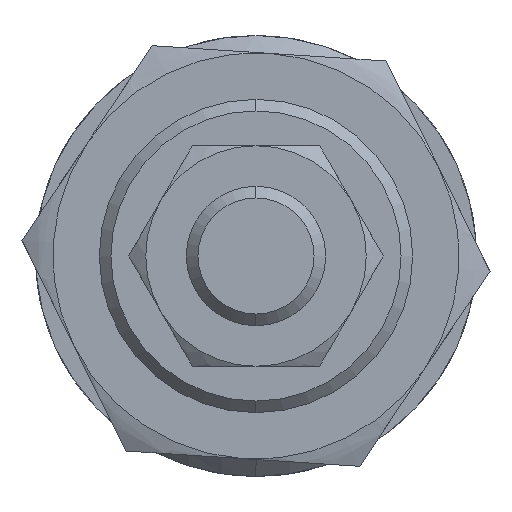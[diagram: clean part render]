
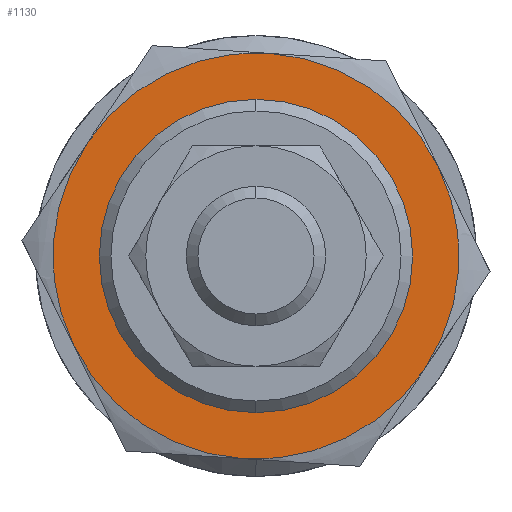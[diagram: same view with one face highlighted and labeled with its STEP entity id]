
A CAD part, left-side view. The second image highlights one B-rep face of the part: STEP entity #1130.
In plain terms, the highlighted planar face has unit normal (-1, 0, 0) as drawn and (0, 0, -1) by its records, which use the part's own axes.
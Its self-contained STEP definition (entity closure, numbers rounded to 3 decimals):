
#39 = DIRECTION ( 'NONE',  ( 1., 0., 0. ) ) ;
#84 = AXIS2_PLACEMENT_3D ( 'NONE', #1186, #341, #2618 ) ;
#161 = CARTESIAN_POINT ( 'NONE',  ( 0., 0., -5. ) ) ;
#228 = DIRECTION ( 'NONE',  ( 0., 0., 1. ) ) ;
#238 = EDGE_CURVE ( 'NONE', #2473, #616, #713, .T. ) ;
#250 = VERTEX_POINT ( 'NONE', #2527 ) ;
#318 = AXIS2_PLACEMENT_3D ( 'NONE', #2919, #2475, #1082 ) ;
#339 = CARTESIAN_POINT ( 'NONE',  ( 12.5, 0., -5. ) ) ;
#341 = DIRECTION ( 'NONE',  ( 0., 0., 1. ) ) ;
#349 = DIRECTION ( 'NONE',  ( 1., 0., 0. ) ) ;
#422 = DIRECTION ( 'NONE',  ( 0., 0., 1. ) ) ;
#458 = CIRCLE ( 'NONE', #2832, 17.5 ) ;
#517 = VERTEX_POINT ( 'NONE', #2274 ) ;
#609 = ORIENTED_EDGE ( 'NONE', *, *, #1582, .F. ) ;
#616 = VERTEX_POINT ( 'NONE', #2909 ) ;
#713 = CIRCLE ( 'NONE', #1554, 17.5 ) ;
#723 = CARTESIAN_POINT ( 'NONE',  ( -17.5, 0., -5. ) ) ;
#829 = CARTESIAN_POINT ( 'NONE',  ( 0., 0., -5. ) ) ;
#848 = EDGE_CURVE ( 'NONE', #1564, #1875, #1105, .T. ) ;
#867 = CARTESIAN_POINT ( 'NONE',  ( 0., 0., -5. ) ) ;
#888 = AXIS2_PLACEMENT_3D ( 'NONE', #161, #1411, #959 ) ;
#936 = CIRCLE ( 'NONE', #3006, 17.5 ) ;
#947 = EDGE_CURVE ( 'NONE', #250, #2542, #458, .T. ) ;
#959 = DIRECTION ( 'NONE',  ( 1., 0., 0. ) ) ;
#1082 = DIRECTION ( 'NONE',  ( 1., 0., 0. ) ) ;
#1105 = CIRCLE ( 'NONE', #3169, 12.5 ) ;
#1127 = FACE_OUTER_BOUND ( 'NONE', #2824, .T. ) ;
#1130 = ADVANCED_FACE ( 'NONE', ( #1188, #1127 ), #3022, .F. ) ;
#1179 = CIRCLE ( 'NONE', #1923, 17.5 ) ;
#1186 = CARTESIAN_POINT ( 'NONE',  ( 0., 0., -5. ) ) ;
#1188 = FACE_BOUND ( 'NONE', #1604, .T. ) ;
#1327 = DIRECTION ( 'NONE',  ( 1., 0., 0. ) ) ;
#1375 = CARTESIAN_POINT ( 'NONE',  ( -12.5, 0., -5. ) ) ;
#1411 = DIRECTION ( 'NONE',  ( 0., 0., 1. ) ) ;
#1503 = CARTESIAN_POINT ( 'NONE',  ( 0., 0., -5. ) ) ;
#1522 = VERTEX_POINT ( 'NONE', #723 ) ;
#1554 = AXIS2_PLACEMENT_3D ( 'NONE', #2738, #228, #349 ) ;
#1564 = VERTEX_POINT ( 'NONE', #1375 ) ;
#1582 = EDGE_CURVE ( 'NONE', #2542, #1522, #936, .T. ) ;
#1584 = CARTESIAN_POINT ( 'NONE',  ( -8.75, 15.155, -5. ) ) ;
#1604 = EDGE_LOOP ( 'NONE', ( #1860, #2717 ) ) ;
#1630 = CIRCLE ( 'NONE', #318, 17.5 ) ;
#1732 = DIRECTION ( 'NONE',  ( 1., 0., 0. ) ) ;
#1860 = ORIENTED_EDGE ( 'NONE', *, *, #2385, .T. ) ;
#1875 = VERTEX_POINT ( 'NONE', #339 ) ;
#1923 = AXIS2_PLACEMENT_3D ( 'NONE', #2869, #422, #2361 ) ;
#1941 = ORIENTED_EDGE ( 'NONE', *, *, #2688, .F. ) ;
#2089 = ORIENTED_EDGE ( 'NONE', *, *, #947, .F. ) ;
#2197 = DIRECTION ( 'NONE',  ( 1., 0., 0. ) ) ;
#2230 = EDGE_CURVE ( 'NONE', #1522, #517, #1179, .T. ) ;
#2274 = CARTESIAN_POINT ( 'NONE',  ( -8.75, -15.155, -5. ) ) ;
#2361 = DIRECTION ( 'NONE',  ( 1., 0., 0. ) ) ;
#2385 = EDGE_CURVE ( 'NONE', #1875, #1564, #3002, .T. ) ;
#2468 = CARTESIAN_POINT ( 'NONE',  ( 8.75, -15.155, -5. ) ) ;
#2473 = VERTEX_POINT ( 'NONE', #2468 ) ;
#2475 = DIRECTION ( 'NONE',  ( 0., 0., 1. ) ) ;
#2527 = CARTESIAN_POINT ( 'NONE',  ( 8.75, 15.155, -5. ) ) ;
#2542 = VERTEX_POINT ( 'NONE', #1584 ) ;
#2594 = DIRECTION ( 'NONE',  ( 0., 0., 1. ) ) ;
#2618 = DIRECTION ( 'NONE',  ( 1., 0., 0. ) ) ;
#2688 = EDGE_CURVE ( 'NONE', #517, #2473, #3356, .T. ) ;
#2701 = DIRECTION ( 'NONE',  ( 0., 0., 1. ) ) ;
#2717 = ORIENTED_EDGE ( 'NONE', *, *, #848, .T. ) ;
#2738 = CARTESIAN_POINT ( 'NONE',  ( 0., 0., -5. ) ) ;
#2815 = DIRECTION ( 'NONE',  ( 0., 0., 1. ) ) ;
#2824 = EDGE_LOOP ( 'NONE', ( #3363, #3234, #1941, #3357, #609, #2089 ) ) ;
#2832 = AXIS2_PLACEMENT_3D ( 'NONE', #3448, #2701, #1327 ) ;
#2841 = DIRECTION ( 'NONE',  ( 0., 0., 1. ) ) ;
#2866 = EDGE_CURVE ( 'NONE', #616, #250, #1630, .T. ) ;
#2869 = CARTESIAN_POINT ( 'NONE',  ( 0., 0., -5. ) ) ;
#2909 = CARTESIAN_POINT ( 'NONE',  ( 17.5, 0., -5. ) ) ;
#2919 = CARTESIAN_POINT ( 'NONE',  ( 0., 0., -5. ) ) ;
#3002 = CIRCLE ( 'NONE', #3417, 12.5 ) ;
#3006 = AXIS2_PLACEMENT_3D ( 'NONE', #867, #2815, #2197 ) ;
#3022 = PLANE ( 'NONE',  #888 ) ;
#3169 = AXIS2_PLACEMENT_3D ( 'NONE', #1503, #2841, #39 ) ;
#3234 = ORIENTED_EDGE ( 'NONE', *, *, #238, .F. ) ;
#3356 = CIRCLE ( 'NONE', #84, 17.5 ) ;
#3357 = ORIENTED_EDGE ( 'NONE', *, *, #2230, .F. ) ;
#3363 = ORIENTED_EDGE ( 'NONE', *, *, #2866, .F. ) ;
#3417 = AXIS2_PLACEMENT_3D ( 'NONE', #829, #2594, #1732 ) ;
#3448 = CARTESIAN_POINT ( 'NONE',  ( 0., 0., -5. ) ) ;
